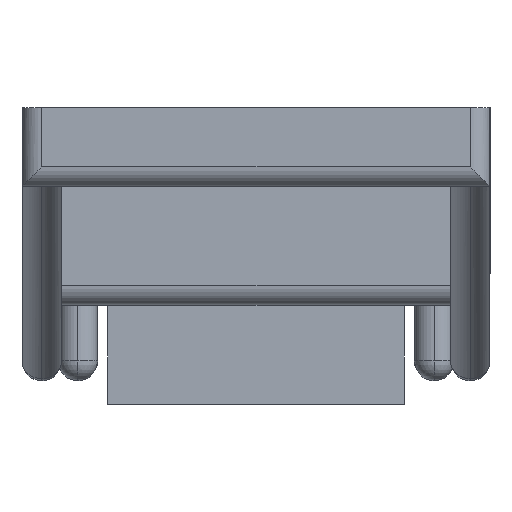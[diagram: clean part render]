
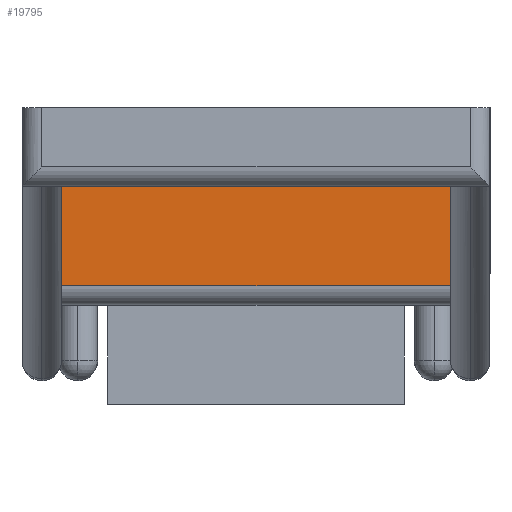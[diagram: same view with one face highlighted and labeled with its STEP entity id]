
A CAD part, left-side view. The second image highlights one B-rep face of the part: STEP entity #19795.
In plain terms, the highlighted planar face has unit normal (-1, 0, 0) as drawn and (1, 0, 0) by its records, which use the part's own axes.
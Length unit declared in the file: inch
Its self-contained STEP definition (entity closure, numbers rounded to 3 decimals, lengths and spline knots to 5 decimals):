
#46 = VERTEX_POINT ( 'NONE', #6582 ) ;
#118 = VERTEX_POINT ( 'NONE', #6654 ) ;
#127 = VERTEX_POINT ( 'NONE', #6663 ) ;
#130 = VERTEX_POINT ( 'NONE', #6666 ) ;
#3499 = CARTESIAN_POINT ( 'NONE',  ( -0.002, 0.2, -0.491 ) ) ;
#3500 = DIRECTION ( 'NONE',  ( 0., 0., 1. ) ) ;
#3576 = CARTESIAN_POINT ( 'NONE',  ( -0.002, 0.45, -0.491 ) ) ;
#3580 = CARTESIAN_POINT ( 'NONE',  ( -0.002, -19685.03937, 0.491 ) ) ;
#3581 = DIRECTION ( 'NONE',  ( 0., 1., 0. ) ) ;
#3583 = CARTESIAN_POINT ( 'NONE',  ( -0.002, -19685.03937, -0.491 ) ) ;
#3584 = DIRECTION ( 'NONE',  ( 0., 1., 0. ) ) ;
#3586 = DIRECTION ( 'NONE',  ( 0., 0., 1. ) ) ;
#4876 = EDGE_LOOP ( 'NONE', ( #5546, #5547, #5548, #5549 ) ) ;
#5546 = ORIENTED_EDGE ( 'NONE', *, *, #21436, .T. ) ;
#5547 = ORIENTED_EDGE ( 'NONE', *, *, #21437, .T. ) ;
#5548 = ORIENTED_EDGE ( 'NONE', *, *, #21435, .F. ) ;
#5549 = ORIENTED_EDGE ( 'NONE', *, *, #21397, .F. ) ;
#6582 = CARTESIAN_POINT ( 'NONE',  ( -0.002, 0.2, -0.491 ) ) ;
#6654 = CARTESIAN_POINT ( 'NONE',  ( -0.002, 0.2, 0.491 ) ) ;
#6663 = CARTESIAN_POINT ( 'NONE',  ( -0.002, 0.45, -0.491 ) ) ;
#6666 = CARTESIAN_POINT ( 'NONE',  ( -0.002, 0.45, 0.491 ) ) ;
#8495 = FACE_OUTER_BOUND ( 'NONE', #4876, .T. ) ;
#8578 = CARTESIAN_POINT ( 'NONE',  ( -0.002, -19685.03937, -0.491 ) ) ;
#8583 = PLANE ( 'NONE',  #21716 ) ;
#8588 = DIRECTION ( 'NONE',  ( 1., 0., 0. ) ) ;
#8589 = DIRECTION ( 'NONE',  ( 0., 0., -1. ) ) ;
#18863 = LINE ( 'NONE', #3499, #18864 ) ;
#18864 = VECTOR ( 'NONE', #3500, 39.37008 ) ;
#19099 = LINE ( 'NONE', #3576, #19116 ) ;
#19112 = LINE ( 'NONE', #3580, #19113 ) ;
#19113 = VECTOR ( 'NONE', #3581, 39.37008 ) ;
#19114 = LINE ( 'NONE', #3583, #19115 ) ;
#19115 = VECTOR ( 'NONE', #3584, 39.37008 ) ;
#19116 = VECTOR ( 'NONE', #3586, 39.37008 ) ;
#19795 = ADVANCED_FACE ( 'NONE', ( #8495 ), #8583, .T. ) ;
#21397 = EDGE_CURVE ( 'NONE', #46, #118, #18863, .T. ) ;
#21435 = EDGE_CURVE ( 'NONE', #118, #130, #19112, .T. ) ;
#21436 = EDGE_CURVE ( 'NONE', #46, #127, #19114, .T. ) ;
#21437 = EDGE_CURVE ( 'NONE', #127, #130, #19099, .T. ) ;
#21716 = AXIS2_PLACEMENT_3D ( 'NONE', #8578, #8588, #8589 ) ;
